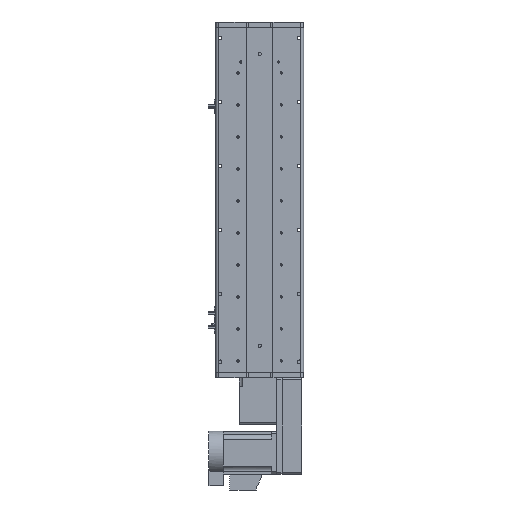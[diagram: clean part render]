
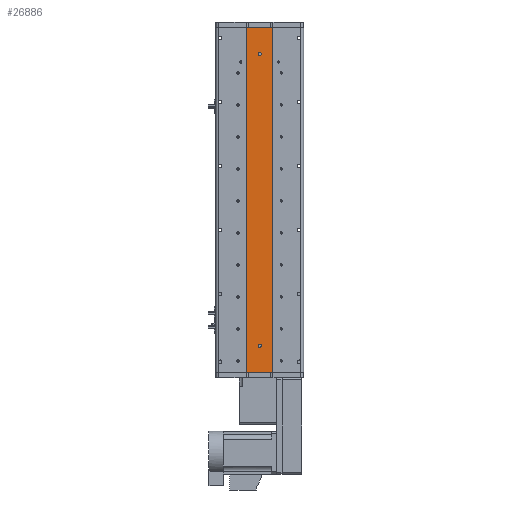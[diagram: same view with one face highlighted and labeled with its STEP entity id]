
A CAD part, front view. The second image highlights one B-rep face of the part: STEP entity #26886.
In plain terms, the highlighted planar face has unit normal (0, -1, 0).
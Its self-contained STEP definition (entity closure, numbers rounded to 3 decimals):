
#30 = DIRECTION ( 'NONE',  ( 0., 0., -1. ) ) ;
#373 = EDGE_CURVE ( 'NONE', #56628, #10626, #10257, .T. ) ;
#496 = ORIENTED_EDGE ( 'NONE', *, *, #24312, .T. ) ;
#993 = ORIENTED_EDGE ( 'NONE', *, *, #23909, .F. ) ;
#1097 = VERTEX_POINT ( 'NONE', #28189 ) ;
#4759 = CARTESIAN_POINT ( 'NONE',  ( 0., 1., -270.5 ) ) ;
#6610 = VERTEX_POINT ( 'NONE', #6991 ) ;
#6991 = CARTESIAN_POINT ( 'NONE',  ( 0., 1., 270.5 ) ) ;
#7057 = CARTESIAN_POINT ( 'NONE',  ( 25., 1., 323.5 ) ) ;
#7255 = FACE_OUTER_BOUND ( 'NONE', #37635, .T. ) ;
#8337 = EDGE_CURVE ( 'NONE', #10626, #56628, #13488, .T. ) ;
#8547 = VERTEX_POINT ( 'NONE', #12725 ) ;
#9722 = ORIENTED_EDGE ( 'NONE', *, *, #39871, .T. ) ;
#9931 = ORIENTED_EDGE ( 'NONE', *, *, #373, .T. ) ;
#10167 = LINE ( 'NONE', #58986, #57678 ) ;
#10257 = CIRCLE ( 'NONE', #48915, 3. ) ;
#10589 = EDGE_CURVE ( 'NONE', #31066, #50142, #10167, .T. ) ;
#10626 = VERTEX_POINT ( 'NONE', #4759 ) ;
#11516 = AXIS2_PLACEMENT_3D ( 'NONE', #28235, #61412, #32998 ) ;
#12725 = CARTESIAN_POINT ( 'NONE',  ( 0., 1., 276.5 ) ) ;
#13488 = CIRCLE ( 'NONE', #45353, 3. ) ;
#13923 = VECTOR ( 'NONE', #30, 1000. ) ;
#14225 = AXIS2_PLACEMENT_3D ( 'NONE', #22483, #55629, #27262 ) ;
#15464 = DIRECTION ( 'NONE',  ( 0., 0., -1. ) ) ;
#16891 = FACE_BOUND ( 'NONE', #33730, .T. ) ;
#17451 = DIRECTION ( 'NONE',  ( 0., 1., 0. ) ) ;
#19093 = VERTEX_POINT ( 'NONE', #38879 ) ;
#21034 = CARTESIAN_POINT ( 'NONE',  ( 0., 1., -273.5 ) ) ;
#22341 = VECTOR ( 'NONE', #15464, 1000. ) ;
#22483 = CARTESIAN_POINT ( 'NONE',  ( 0., 1., 273.5 ) ) ;
#23027 = DIRECTION ( 'NONE',  ( 0., 1., 0. ) ) ;
#23909 = EDGE_CURVE ( 'NONE', #1097, #19093, #40177, .T. ) ;
#24312 = EDGE_CURVE ( 'NONE', #1097, #31066, #34932, .T. ) ;
#25827 = DIRECTION ( 'NONE',  ( 0., 0., 1. ) ) ;
#26552 = LINE ( 'NONE', #47497, #13923 ) ;
#26886 = ADVANCED_FACE ( 'NONE', ( #29461, #16891, #7255 ), #37521, .F. ) ;
#27262 = DIRECTION ( 'NONE',  ( 0., 0., 1. ) ) ;
#27575 = VECTOR ( 'NONE', #54520, 1000. ) ;
#28189 = CARTESIAN_POINT ( 'NONE',  ( -25., 1., 323.5 ) ) ;
#28235 = CARTESIAN_POINT ( 'NONE',  ( 0., 1., 273.5 ) ) ;
#28748 = ORIENTED_EDGE ( 'NONE', *, *, #57467, .F. ) ;
#29008 = ORIENTED_EDGE ( 'NONE', *, *, #10589, .T. ) ;
#29461 = FACE_BOUND ( 'NONE', #61138, .T. ) ;
#30040 = CIRCLE ( 'NONE', #14225, 3. ) ;
#31066 = VERTEX_POINT ( 'NONE', #42443 ) ;
#32998 = DIRECTION ( 'NONE',  ( 0., 0., 1. ) ) ;
#33213 = ORIENTED_EDGE ( 'NONE', *, *, #41067, .T. ) ;
#33730 = EDGE_LOOP ( 'NONE', ( #33213, #9722 ) ) ;
#34932 = LINE ( 'NONE', #39103, #22341 ) ;
#37521 = PLANE ( 'NONE',  #61347 ) ;
#37635 = EDGE_LOOP ( 'NONE', ( #29008, #28748, #993, #496 ) ) ;
#38879 = CARTESIAN_POINT ( 'NONE',  ( 25., 1., 323.5 ) ) ;
#39103 = CARTESIAN_POINT ( 'NONE',  ( -25., 1., 323.5 ) ) ;
#39871 = EDGE_CURVE ( 'NONE', #8547, #6610, #30040, .T. ) ;
#40177 = LINE ( 'NONE', #7057, #27575 ) ;
#41067 = EDGE_CURVE ( 'NONE', #6610, #8547, #50605, .T. ) ;
#42300 = DIRECTION ( 'NONE',  ( 0., 0., 1. ) ) ;
#42443 = CARTESIAN_POINT ( 'NONE',  ( -25., 1., -323.5 ) ) ;
#45353 = AXIS2_PLACEMENT_3D ( 'NONE', #21034, #54196, #25827 ) ;
#45828 = CARTESIAN_POINT ( 'NONE',  ( 0., 1., -273.5 ) ) ;
#47497 = CARTESIAN_POINT ( 'NONE',  ( 25., 1., 323.5 ) ) ;
#48915 = AXIS2_PLACEMENT_3D ( 'NONE', #45828, #17451, #50582 ) ;
#50142 = VERTEX_POINT ( 'NONE', #55214 ) ;
#50582 = DIRECTION ( 'NONE',  ( 0., 0., 1. ) ) ;
#50605 = CIRCLE ( 'NONE', #11516, 3. ) ;
#54196 = DIRECTION ( 'NONE',  ( 0., 1., 0. ) ) ;
#54340 = ORIENTED_EDGE ( 'NONE', *, *, #8337, .T. ) ;
#54414 = DIRECTION ( 'NONE',  ( 1., 0., 0. ) ) ;
#54520 = DIRECTION ( 'NONE',  ( 1., 0., 0. ) ) ;
#55214 = CARTESIAN_POINT ( 'NONE',  ( 25., 1., -323.5 ) ) ;
#55308 = CARTESIAN_POINT ( 'NONE',  ( 0., 1., -276.5 ) ) ;
#55629 = DIRECTION ( 'NONE',  ( 0., 1., 0. ) ) ;
#56628 = VERTEX_POINT ( 'NONE', #55308 ) ;
#57467 = EDGE_CURVE ( 'NONE', #19093, #50142, #26552, .T. ) ;
#57678 = VECTOR ( 'NONE', #54414, 1000. ) ;
#58986 = CARTESIAN_POINT ( 'NONE',  ( 25., 1., -323.5 ) ) ;
#61138 = EDGE_LOOP ( 'NONE', ( #9931, #54340 ) ) ;
#61170 = CARTESIAN_POINT ( 'NONE',  ( 25., 1., 323.5 ) ) ;
#61347 = AXIS2_PLACEMENT_3D ( 'NONE', #61170, #23027, #42300 ) ;
#61412 = DIRECTION ( 'NONE',  ( 0., 1., 0. ) ) ;
